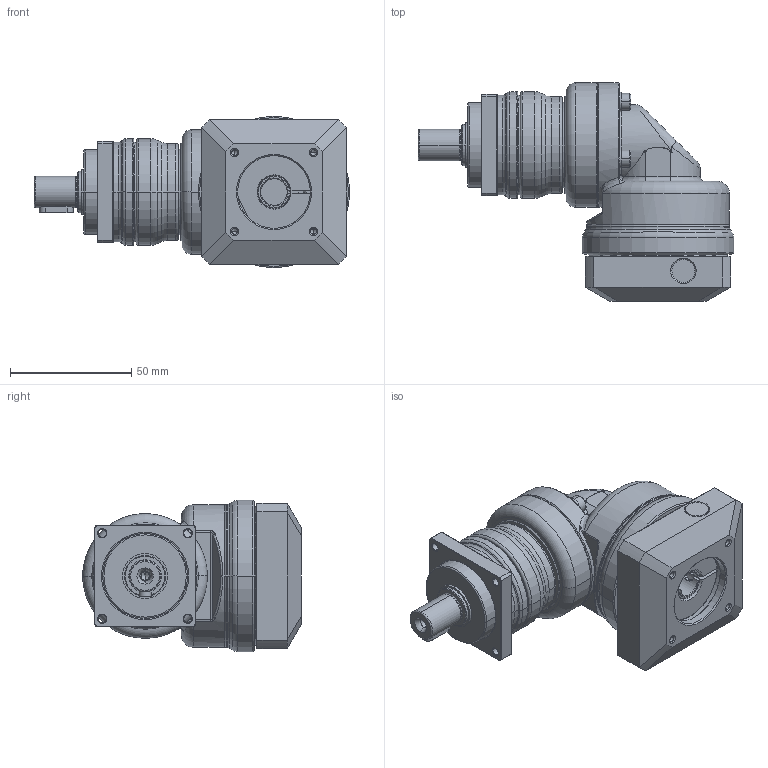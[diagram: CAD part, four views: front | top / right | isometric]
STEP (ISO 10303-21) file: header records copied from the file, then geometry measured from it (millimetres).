
FILE_DESCRIPTION((''),'2;1');
FILE_NAME('PA2R-042_1ST_11-P0411200101_ASM','2016-05-12T',('d01943'),(''),'PRO/ENGINEER BY PARAMETRIC TECHNOLOGY CORPORATION, 2008410','PRO/ENGINEER BY PARAMETRIC TECHNOLOGY CORPORATION, 2008410','');
FILE_SCHEMA(('CONFIG_CONTROL_DESIGN'));
Length unit declared in the file: millimetre
Products named in the file (12): P1327100001; P0250100001; P0350100601; P1349100001; P1017100001; P0713101001; P0503200005; P1350100101; P0411200101; P1702300001; 2111B104015; PA2R-042_1ST_11-P0411200101_ASM
Assembly tree (14 placements, depth 2):
  PA2R-042_1ST_11-P0411200101_ASM
    P1327100001
    P0250100001
    P0350100601
    P1349100001
    P1017100001
    P0713101001
    P0503200005
    P1350100101
    P0411200101
    P1702300001
    2111B104015  x4
Bounding box: 130.25 x 90.25 x 62.5 mm (x, y, z)
Volume: 189271.6 mm3; surface area: 74077.7 mm2
Topology: 14 solids, 14 shells, 741 faces, 1628 edges, 941 vertices
Faces by surface type: cylinder 218, cone 216, plane 170, torus 102, bspline 35
Entity records: 23485 total; most frequent: CARTESIAN_POINT 9130, DIRECTION 3175, ORIENTED_EDGE 2784, EDGE_CURVE 1392, AXIS2_PLACEMENT_3D 1339, VERTEX_POINT 821, EDGE_LOOP 725, CIRCLE 706
